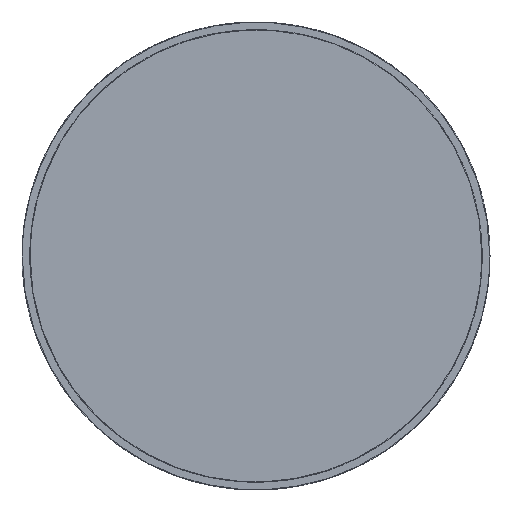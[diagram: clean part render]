
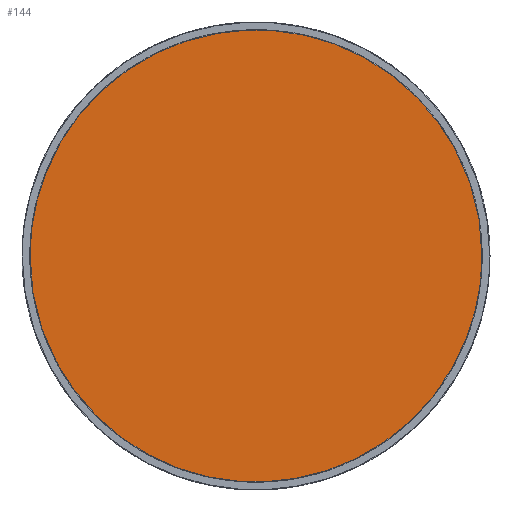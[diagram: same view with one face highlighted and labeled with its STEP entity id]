
A CAD part, top view. The second image highlights one B-rep face of the part: STEP entity #144.
In plain terms, the highlighted free-form (B-spline) face has degree [1, 1] with [2, 2] control points.
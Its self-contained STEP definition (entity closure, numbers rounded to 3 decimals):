
#46=B_SPLINE_SURFACE_WITH_KNOTS('',1,1,((#6204,#6205),(#6206,#6207)),
 .UNSPECIFIED.,.F.,.F.,.F.,(2,2),(2,2),(-51.96,643.56),
(-51.96,643.56),.UNSPECIFIED.);
#144=ADVANCED_FACE('',(#236),#46,.T.);
#236=FACE_OUTER_BOUND('',#353,.T.);
#353=EDGE_LOOP('',(#751,#752));
#751=ORIENTED_EDGE('',*,*,#2366,.T.);
#752=ORIENTED_EDGE('',*,*,#2367,.T.);
#1159=PCURVE('',#46,#1567);
#1160=PCURVE('',#46,#1568);
#1161=PCURVE('',#2819,#1569);
#1169=PCURVE('',#2821,#1577);
#1567=DEFINITIONAL_REPRESENTATION('',(#2607),#6412);
#1568=DEFINITIONAL_REPRESENTATION('',(#2609),#6412);
#1569=DEFINITIONAL_REPRESENTATION('',(#1943),#6412);
#1577=DEFINITIONAL_REPRESENTATION('',(#1951),#6412);
#1943=B_SPLINE_CURVE_WITH_KNOTS('',1,(#6375,#6376),.UNSPECIFIED.,.F.,.F.,
(2,2),(-910.115,0.),.UNSPECIFIED.);
#1951=B_SPLINE_CURVE_WITH_KNOTS('',1,(#6402,#6403),.UNSPECIFIED.,.F.,.F.,
(2,2),(-1820.229,-910.115),.UNSPECIFIED.);
#2158=SURFACE_CURVE('',#2606,(#1159,#1169),.PCURVE_S1.);
#2159=SURFACE_CURVE('',#2608,(#1160,#1161),.PCURVE_S1.);
#2366=EDGE_CURVE('',#2733,#2734,#2158,.T.);
#2367=EDGE_CURVE('',#2734,#2733,#2159,.T.);
#2606=(
BOUNDED_CURVE()
B_SPLINE_CURVE(2,(#6355,#6356,#6357,#6358,#6359),.UNSPECIFIED.,.F.,.F.)
B_SPLINE_CURVE_WITH_KNOTS((3,2,3),(-1820.229,-1365.172,
-910.115),.UNSPECIFIED.)
CURVE()
GEOMETRIC_REPRESENTATION_ITEM()
RATIONAL_B_SPLINE_CURVE((1.,0.707,1.,0.707,1.))
REPRESENTATION_ITEM('')
);
#2607=(
BOUNDED_CURVE()
B_SPLINE_CURVE(2,(#6360,#6361,#6362,#6363,#6364),.UNSPECIFIED.,.F.,.F.)
B_SPLINE_CURVE_WITH_KNOTS((3,2,3),(-1820.229,-1365.172,
-910.115),.UNSPECIFIED.)
CURVE()
GEOMETRIC_REPRESENTATION_ITEM()
RATIONAL_B_SPLINE_CURVE((1.,0.707,1.,0.707,1.))
REPRESENTATION_ITEM('')
);
#2608=(
BOUNDED_CURVE()
B_SPLINE_CURVE(2,(#6365,#6366,#6367,#6368,#6369),.UNSPECIFIED.,.F.,.F.)
B_SPLINE_CURVE_WITH_KNOTS((3,2,3),(-910.115,-455.057,
0.),.UNSPECIFIED.)
CURVE()
GEOMETRIC_REPRESENTATION_ITEM()
RATIONAL_B_SPLINE_CURVE((1.,0.707,1.,0.707,1.))
REPRESENTATION_ITEM('')
);
#2609=(
BOUNDED_CURVE()
B_SPLINE_CURVE(2,(#6370,#6371,#6372,#6373,#6374),.UNSPECIFIED.,.F.,.F.)
B_SPLINE_CURVE_WITH_KNOTS((3,2,3),(-910.115,-455.057,
0.),.UNSPECIFIED.)
CURVE()
GEOMETRIC_REPRESENTATION_ITEM()
RATIONAL_B_SPLINE_CURVE((1.,0.707,1.,0.707,1.))
REPRESENTATION_ITEM('')
);
#2733=VERTEX_POINT('',#6256);
#2734=VERTEX_POINT('',#6257);
#2819=(
BOUNDED_SURFACE()
B_SPLINE_SURFACE(2,2,((#6208,#6209,#6210),(#6211,#6212,#6213),(#6214,#6215,
#6216),(#6217,#6218,#6219),(#6220,#6221,#6222)),.UNSPECIFIED.,.F.,.F.,.F.)
B_SPLINE_SURFACE_WITH_KNOTS((3,2,3),(3,3),(0.,455.057,910.115),
(0.,0.471),.UNSPECIFIED.)
GEOMETRIC_REPRESENTATION_ITEM()
RATIONAL_B_SPLINE_SURFACE(((1.,0.707,1.),(0.707,
0.5,0.707),(1.,0.707,1.),(0.707,
0.5,0.707),(1.,0.707,1.)))
REPRESENTATION_ITEM('')
SURFACE()
);
#2821=(
BOUNDED_SURFACE()
B_SPLINE_SURFACE(2,2,((#6233,#6234,#6235),(#6236,#6237,#6238),(#6239,#6240,
#6241),(#6242,#6243,#6244),(#6245,#6246,#6247)),.UNSPECIFIED.,.F.,.F.,.F.)
B_SPLINE_SURFACE_WITH_KNOTS((3,2,3),(3,3),(910.115,1365.172,
1820.229),(0.,0.471),.UNSPECIFIED.)
GEOMETRIC_REPRESENTATION_ITEM()
RATIONAL_B_SPLINE_SURFACE(((1.,0.707,1.),(0.707,
0.5,0.707),(1.,0.707,1.),(0.707,
0.5,0.707),(1.,0.707,1.)))
REPRESENTATION_ITEM('')
SURFACE()
);
#6204=CARTESIAN_POINT('',(-341.105,-128.427,1915.51));
#6205=CARTESIAN_POINT('',(-341.105,567.093,1915.51));
#6206=CARTESIAN_POINT('',(354.415,-128.427,1915.51));
#6207=CARTESIAN_POINT('',(354.415,567.093,1915.51));
#6208=CARTESIAN_POINT('',(296.355,219.333,1915.51));
#6209=CARTESIAN_POINT('',(296.655,219.333,1915.51));
#6210=CARTESIAN_POINT('',(296.655,219.333,1915.21));
#6211=CARTESIAN_POINT('',(296.355,-70.367,1915.51));
#6212=CARTESIAN_POINT('',(296.655,-70.667,1915.51));
#6213=CARTESIAN_POINT('',(296.655,-70.667,1915.21));
#6214=CARTESIAN_POINT('',(6.655,-70.367,1915.51));
#6215=CARTESIAN_POINT('',(6.655,-70.667,1915.51));
#6216=CARTESIAN_POINT('',(6.655,-70.667,1915.21));
#6217=CARTESIAN_POINT('',(-283.045,-70.367,1915.51));
#6218=CARTESIAN_POINT('',(-283.345,-70.667,1915.51));
#6219=CARTESIAN_POINT('',(-283.345,-70.667,1915.21));
#6220=CARTESIAN_POINT('',(-283.045,219.333,1915.51));
#6221=CARTESIAN_POINT('',(-283.345,219.333,1915.51));
#6222=CARTESIAN_POINT('',(-283.345,219.333,1915.21));
#6233=CARTESIAN_POINT('',(-283.045,219.333,1915.51));
#6234=CARTESIAN_POINT('',(-283.345,219.333,1915.51));
#6235=CARTESIAN_POINT('',(-283.345,219.333,1915.21));
#6236=CARTESIAN_POINT('',(-283.045,509.033,1915.51));
#6237=CARTESIAN_POINT('',(-283.345,509.333,1915.51));
#6238=CARTESIAN_POINT('',(-283.345,509.333,1915.21));
#6239=CARTESIAN_POINT('',(6.655,509.033,1915.51));
#6240=CARTESIAN_POINT('',(6.655,509.333,1915.51));
#6241=CARTESIAN_POINT('',(6.655,509.333,1915.21));
#6242=CARTESIAN_POINT('',(296.355,509.033,1915.51));
#6243=CARTESIAN_POINT('',(296.655,509.333,1915.51));
#6244=CARTESIAN_POINT('',(296.655,509.333,1915.21));
#6245=CARTESIAN_POINT('',(296.355,219.333,1915.51));
#6246=CARTESIAN_POINT('',(296.655,219.333,1915.51));
#6247=CARTESIAN_POINT('',(296.655,219.333,1915.21));
#6256=CARTESIAN_POINT('',(296.355,219.333,1915.51));
#6257=CARTESIAN_POINT('',(-283.045,219.333,1915.51));
#6355=CARTESIAN_POINT('',(296.355,219.333,1915.51));
#6356=CARTESIAN_POINT('',(296.355,509.033,1915.51));
#6357=CARTESIAN_POINT('',(6.655,509.033,1915.51));
#6358=CARTESIAN_POINT('',(-283.045,509.033,1915.51));
#6359=CARTESIAN_POINT('',(-283.045,219.333,1915.51));
#6360=CARTESIAN_POINT('',(585.5,295.8));
#6361=CARTESIAN_POINT('',(585.5,585.5));
#6362=CARTESIAN_POINT('',(295.8,585.5));
#6363=CARTESIAN_POINT('',(6.1,585.5));
#6364=CARTESIAN_POINT('',(6.1,295.8));
#6365=CARTESIAN_POINT('',(-283.045,219.333,1915.51));
#6366=CARTESIAN_POINT('',(-283.045,-70.367,1915.51));
#6367=CARTESIAN_POINT('',(6.655,-70.367,1915.51));
#6368=CARTESIAN_POINT('',(296.355,-70.367,1915.51));
#6369=CARTESIAN_POINT('',(296.355,219.333,1915.51));
#6370=CARTESIAN_POINT('',(6.1,295.8));
#6371=CARTESIAN_POINT('',(6.1,6.1));
#6372=CARTESIAN_POINT('',(295.8,6.1));
#6373=CARTESIAN_POINT('',(585.5,6.1));
#6374=CARTESIAN_POINT('',(585.5,295.8));
#6375=CARTESIAN_POINT('',(910.115,0.));
#6376=CARTESIAN_POINT('',(0.,0.));
#6402=CARTESIAN_POINT('',(1820.229,0.));
#6403=CARTESIAN_POINT('',(910.115,0.));
#6412=(
GEOMETRIC_REPRESENTATION_CONTEXT(2)
PARAMETRIC_REPRESENTATION_CONTEXT()
REPRESENTATION_CONTEXT('pspace','')
);
